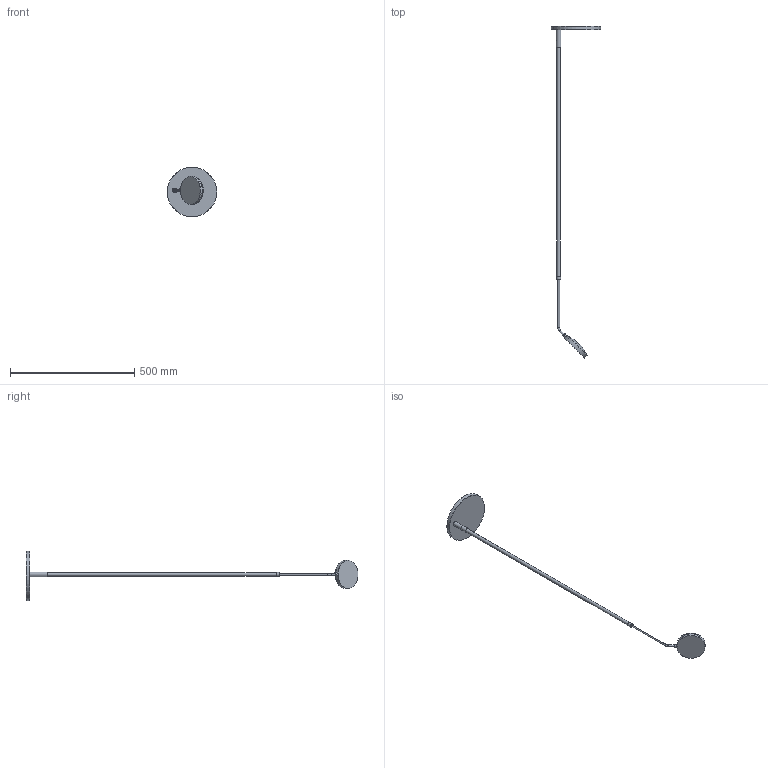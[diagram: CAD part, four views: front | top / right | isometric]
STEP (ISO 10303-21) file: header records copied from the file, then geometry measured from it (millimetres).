
FILE_DESCRIPTION(/* description */ (''),/* implementation_level */ '2;1');
FILE_NAME(/* name */ 'C:\Users\STEFANO\Desktop\Spoon\TERRA\SEM.000132.stp',/* time_stamp */ '2020-06-10T15:01:41+02:00',/* author */ ('STEFANO'),/* organization */ (''),/* preprocessor_version */ 'ST-DEVELOPER v18.1',/* originating_system */ 'Autodesk Inventor 2020',/* authorisation */ '');
FILE_SCHEMA (('AUTOMOTIVE_DESIGN { 1 0 10303 214 3 1 1 }'));
Length unit declared in the file: millimetre
Products named in the file (12): TERRA SEMP; 1; 2; 3; 11; 6; 10; 7; 8; 9; 5; 4
Assembly tree (11 placements, depth 4):
  TERRA SEMP
    1
    2
    3
    11
      6
      10
        7
        8
        9
      5
        4
Bounding box: 200 x 1336.58 x 200 mm (x, y, z)
Volume: 767907.4 mm3; surface area: 207742.5 mm2
Topology: 8 solids, 8 shells, 43 faces, 73 edges, 48 vertices
Faces by surface type: plane 16, cylinder 14, cone 7, torus 4, sphere 2
Full cylindrical faces by diameter (mm): 4 x2, 7 x2, 10.5 x1, 12 x2, 14 x1, 16 x1, 18 x1, 96 x1, 111 x1, 113.5 x1, 200 x1
Entity records: 1535 total; most frequent: DIRECTION 253, CARTESIAN_POINT 221, ORIENTED_EDGE 146, AXIS2_PLACEMENT_3D 116, EDGE_CURVE 73, CIRCLE 50, EDGE_LOOP 49, VERTEX_POINT 48
